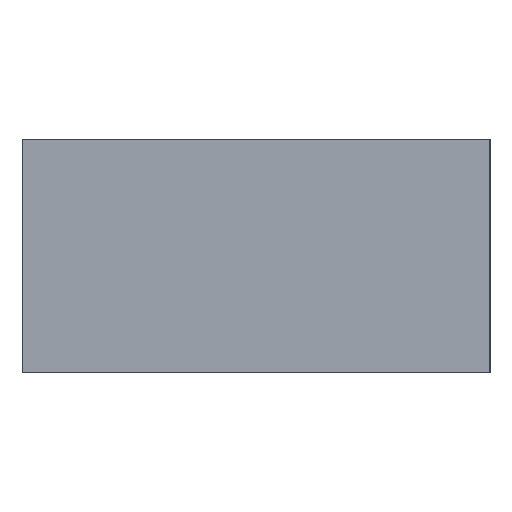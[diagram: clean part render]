
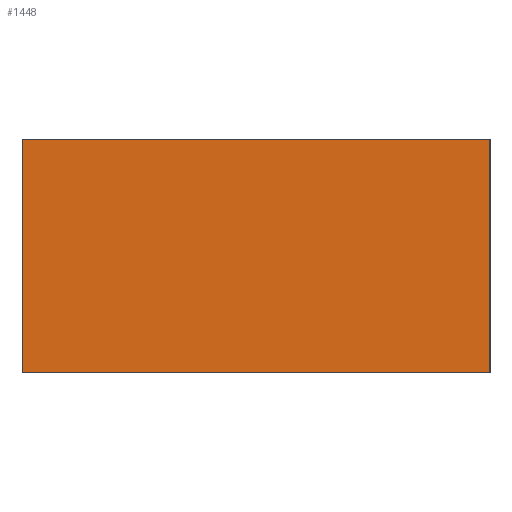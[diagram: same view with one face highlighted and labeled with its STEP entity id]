
A CAD part, front view. The second image highlights one B-rep face of the part: STEP entity #1448.
In plain terms, the highlighted planar face has unit normal (0, -1, 0).
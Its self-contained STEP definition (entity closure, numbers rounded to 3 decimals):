
#1244=CARTESIAN_POINT('',(0.0,-295.,-75.));
#1245=VERTEX_POINT('',#1244);
#1252=CARTESIAN_POINT('',(0.0,-295.,75.));
#1253=VERTEX_POINT('',#1252);
#1254=CARTESIAN_POINT('',(0.0,-295.,-75.));
#1255=DIRECTION('',(0.0,0.0,1.0));
#1256=VECTOR('',#1255,150.);
#1257=LINE('',#1254,#1256);
#1258=EDGE_CURVE('',#1245,#1253,#1257,.T.);
#1365=CARTESIAN_POINT('',(300.0,-295.,75.));
#1366=VERTEX_POINT('',#1365);
#1375=CARTESIAN_POINT('',(0.0,-295.,75.));
#1376=DIRECTION('',(1.0,0.0,0.0));
#1377=VECTOR('',#1376,300.0);
#1378=LINE('',#1375,#1377);
#1379=EDGE_CURVE('',#1253,#1366,#1378,.T.);
#1413=CARTESIAN_POINT('',(300.0,-295.,-75.));
#1414=VERTEX_POINT('',#1413);
#1421=CARTESIAN_POINT('',(0.0,-295.,-75.));
#1422=DIRECTION('',(1.0,0.0,0.0));
#1423=VECTOR('',#1422,300.0);
#1424=LINE('',#1421,#1423);
#1425=EDGE_CURVE('',#1245,#1414,#1424,.T.);
#1432=CARTESIAN_POINT('',(0.0,-295.0,0.));
#1433=DIRECTION('',(0.0,-1.0,0.0));
#1434=DIRECTION('',(0.0,0.0,-1.0));
#1435=AXIS2_PLACEMENT_3D('',#1432,#1433,#1434);
#1436=PLANE('',#1435);
#1437=CARTESIAN_POINT('',(300.0,-295.,-75.));
#1438=DIRECTION('',(0.0,0.0,1.0));
#1439=VECTOR('',#1438,150.);
#1440=LINE('',#1437,#1439);
#1441=EDGE_CURVE('',#1414,#1366,#1440,.T.);
#1442=ORIENTED_EDGE('',*,*,#1441,.T.);
#1443=ORIENTED_EDGE('',*,*,#1379,.F.);
#1444=ORIENTED_EDGE('',*,*,#1258,.F.);
#1445=ORIENTED_EDGE('',*,*,#1425,.T.);
#1446=EDGE_LOOP('',(#1442,#1443,#1444,#1445));
#1447=FACE_OUTER_BOUND('',#1446,.T.);
#1448=ADVANCED_FACE('',(#1447),#1436,.T.);
